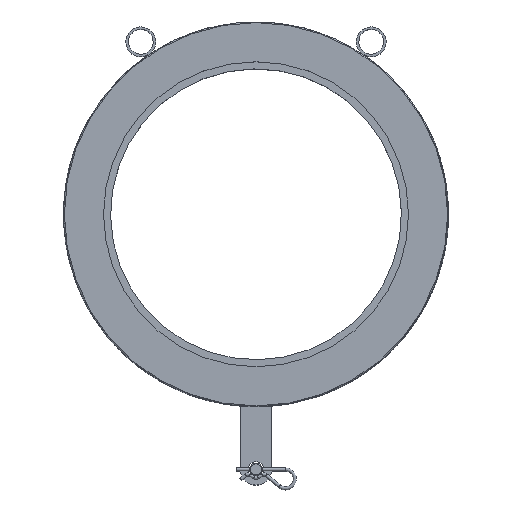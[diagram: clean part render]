
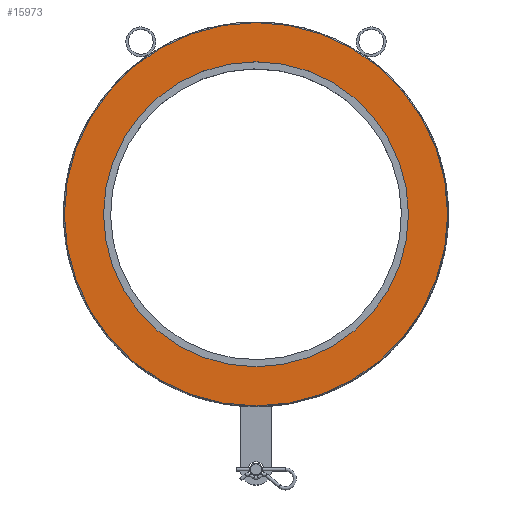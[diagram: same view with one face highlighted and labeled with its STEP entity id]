
A CAD part, top view. The second image highlights one B-rep face of the part: STEP entity #15973.
In plain terms, the highlighted planar face has unit normal (0, 0, 1).
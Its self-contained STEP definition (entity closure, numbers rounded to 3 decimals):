
#511=FACE_BOUND('',#3495,.T.);
#1698=PLANE('',#16846);
#2547=FACE_OUTER_BOUND('',#3494,.T.);
#3494=EDGE_LOOP('',(#14692));
#3495=EDGE_LOOP('',(#14693));
#6160=CIRCLE('',#16842,194.5);
#6161=CIRCLE('',#16844,244.5);
#7719=VERTEX_POINT('',#37646);
#7720=VERTEX_POINT('',#37650);
#10059=EDGE_CURVE('',#7719,#7719,#6160,.T.);
#10061=EDGE_CURVE('',#7720,#7720,#6161,.T.);
#14692=ORIENTED_EDGE('',*,*,#10061,.F.);
#14693=ORIENTED_EDGE('',*,*,#10059,.T.);
#15973=ADVANCED_FACE('',(#2547,#511),#1698,.T.);
#16842=AXIS2_PLACEMENT_3D('',#37647,#19608,#19609);
#16844=AXIS2_PLACEMENT_3D('',#37651,#19613,#19614);
#16846=AXIS2_PLACEMENT_3D('',#37654,#19618,#19619);
#19608=DIRECTION('center_axis',(0.,0.,
-1.));
#19609=DIRECTION('ref_axis',(-1.,0.,0.));
#19613=DIRECTION('center_axis',(0.,0.,
-1.));
#19614=DIRECTION('ref_axis',(-1.,0.,0.));
#19618=DIRECTION('center_axis',(0.,0.,
1.));
#19619=DIRECTION('ref_axis',(-1.,0.,0.));
#37646=CARTESIAN_POINT('',(194.5,0.,132.));
#37647=CARTESIAN_POINT('Origin',(0.,0.,
132.));
#37650=CARTESIAN_POINT('',(244.5,0.,132.));
#37651=CARTESIAN_POINT('Origin',(0.,0.,
132.));
#37654=CARTESIAN_POINT('Origin',(0.,0.,
132.));
